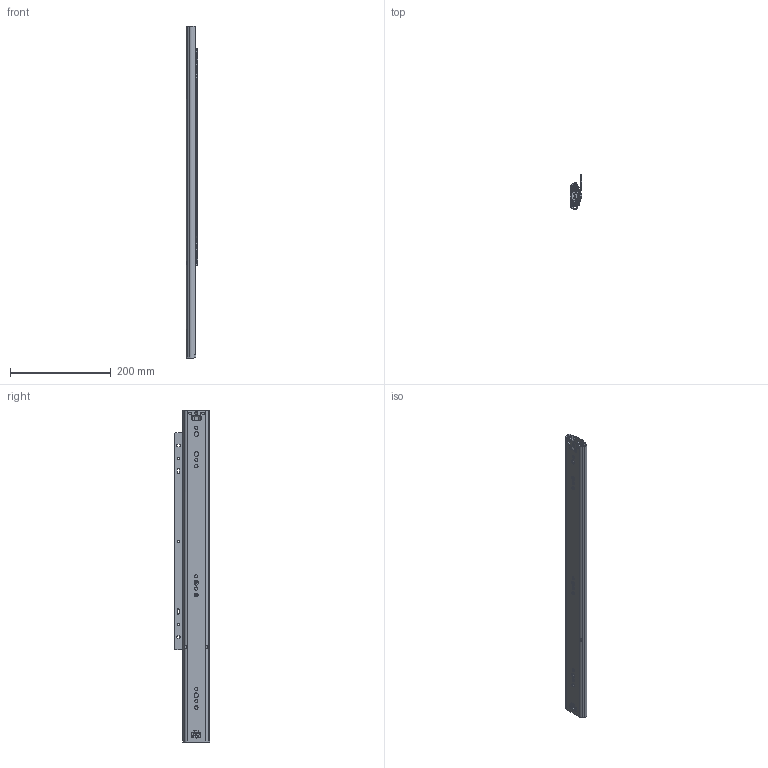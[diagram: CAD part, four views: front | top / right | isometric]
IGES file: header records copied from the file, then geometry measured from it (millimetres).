
Global section: file name: No Iges File Name specified; native system: Autodesk Inventor 2012; preprocessor: AutoDesk Inventor Iges Exporter R2012; author: HV83751; date: 20130708.091624; units: inch
Bounding box: 22.61 x 70.18 x 660.41 mm (x, y, z)
Surface area: 318250.9 mm2
Topology: 6 solids, 35 shells, 1659 faces, 4906 edges, 3166 vertices
Faces by surface type: plane 823, revolution 443, cylinder 334, bspline 50, torus 9
